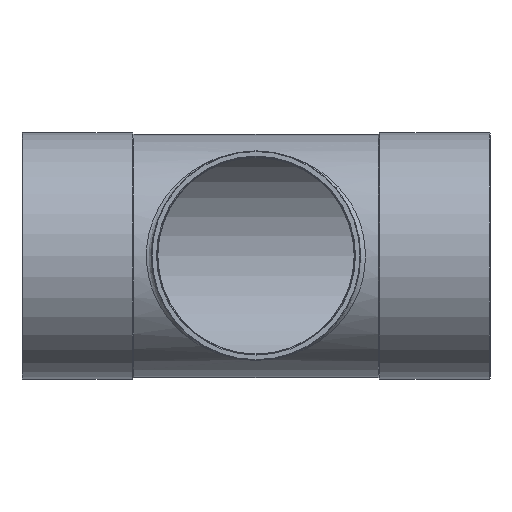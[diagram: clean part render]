
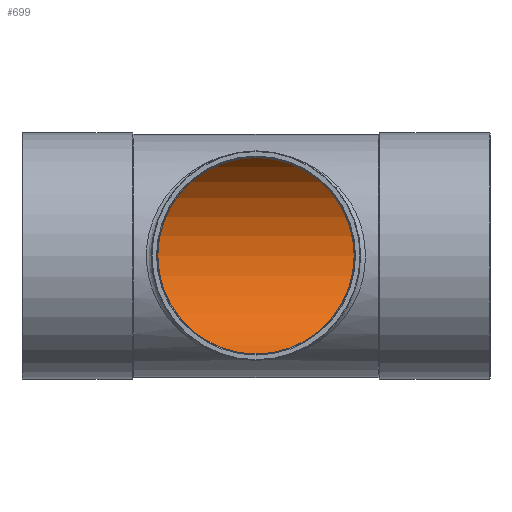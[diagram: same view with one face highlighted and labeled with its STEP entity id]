
A CAD part, top view. The second image highlights one B-rep face of the part: STEP entity #699.
In plain terms, the highlighted cylindrical face has radius 37.6 mm (diameter 75.2 mm), a partial arc.
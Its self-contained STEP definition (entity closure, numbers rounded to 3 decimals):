
#51=CARTESIAN_POINT('',(-40.5,37.6,0.0));
#52=VERTEX_POINT('',#51);
#68=CARTESIAN_POINT('',(-40.5,-37.6,0.));
#69=VERTEX_POINT('',#68);
#76=CARTESIAN_POINT('',(-40.5,0.0,0.0));
#77=DIRECTION('',(1.0,0.0,0.0));
#78=DIRECTION('',(0.0,1.0,0.0));
#79=AXIS2_PLACEMENT_3D('',#76,#77,#78);
#80=CIRCLE('',#79,37.6);
#81=EDGE_CURVE('',#69,#52,#80,.T.);
#91=CARTESIAN_POINT('',(40.5,37.6,0.0));
#92=VERTEX_POINT('',#91);
#101=CARTESIAN_POINT('',(40.5,-37.6,0.));
#102=VERTEX_POINT('',#101);
#103=CARTESIAN_POINT('',(40.5,0.0,0.0));
#104=DIRECTION('',(1.0,0.0,0.0));
#105=DIRECTION('',(0.0,1.0,0.0));
#106=AXIS2_PLACEMENT_3D('',#103,#104,#105);
#107=CIRCLE('',#106,37.6);
#108=EDGE_CURVE('',#102,#92,#107,.T.);
#678=CARTESIAN_POINT('',(0.,0.0,0.0));
#679=DIRECTION('',(1.0,0.0,0.0));
#680=DIRECTION('',(0.0,1.0,0.0));
#681=AXIS2_PLACEMENT_3D('',#678,#679,#680);
#682=CYLINDRICAL_SURFACE('',#681,37.6);
#683=CARTESIAN_POINT('',(-40.5,37.6,0.0));
#684=DIRECTION('',(1.0,0.0,0.0));
#685=VECTOR('',#684,81.0);
#686=LINE('',#683,#685);
#687=EDGE_CURVE('',#52,#92,#686,.T.);
#688=ORIENTED_EDGE('',*,*,#687,.F.);
#689=ORIENTED_EDGE('',*,*,#81,.F.);
#690=CARTESIAN_POINT('',(40.5,-37.6,0.));
#691=DIRECTION('',(-1.0,0.0,0.0));
#692=VECTOR('',#691,81.0);
#693=LINE('',#690,#692);
#694=EDGE_CURVE('',#102,#69,#693,.T.);
#695=ORIENTED_EDGE('',*,*,#694,.F.);
#696=ORIENTED_EDGE('',*,*,#108,.T.);
#697=EDGE_LOOP('',(#688,#689,#695,#696));
#698=FACE_OUTER_BOUND('',#697,.T.);
#699=ADVANCED_FACE('',(#698),#682,.F.);
